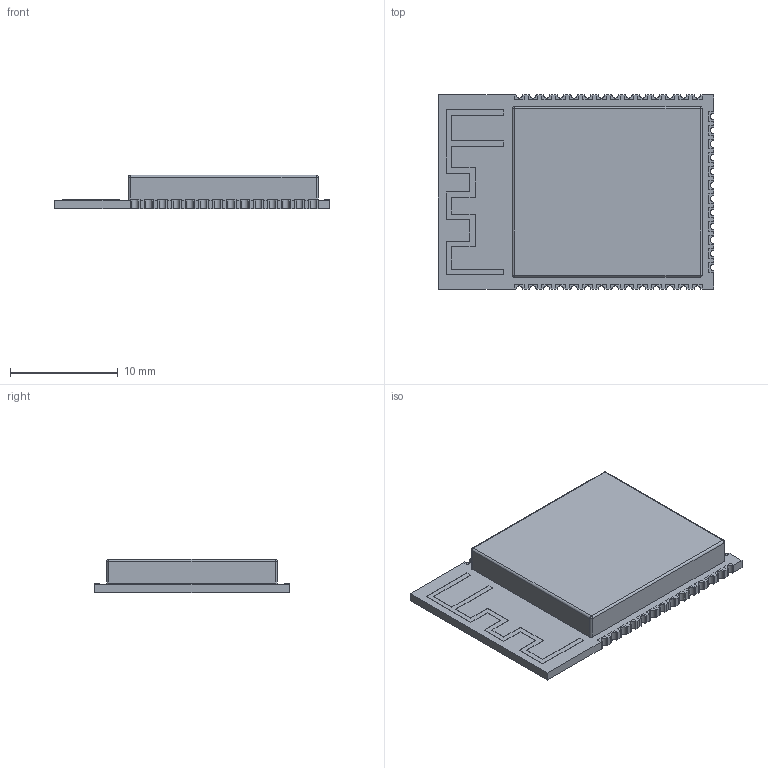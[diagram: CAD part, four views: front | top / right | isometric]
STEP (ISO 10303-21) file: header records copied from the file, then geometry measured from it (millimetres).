
FILE_DESCRIPTION(/* description */ ('STEP AP242 Edition 2','CAx-IF Rec.Pracs.---Representation and Presentation of Product Manufacturing Information (PMI)---4.0---2014-10-13','CAx-IF Rec.Pracs.---3D Tessellated Geometry---0.4---2014-09-14','2;1','CAx-IF Rec.Pracs.---User Defined Attributes---1.5---2016-08-15'),/* implementation_level */ '2;1');
FILE_NAME(/* name */ 'Assembly 1 - WIRELM-SMD_ESP32-S3-WROOM-1~WIRELM-SMD_ESP32-S3-WROOM-1~nxQB',/* time_stamp */ '2026-04-02T09:55:31Z',/* author */ (''),/* organization */ (''),/* preprocessor_version */ 'ST-DEVELOPER v20',/* originating_system */ 'ONSHAPE BY PTC INC, 1.212',/* authorisation */ ' ');
FILE_SCHEMA (('AP242_MANAGED_MODEL_BASED_3D_ENGINEERING_MIM_LF { 1 0 10303 442 3 1 4 }'));
Length unit declared in the file: metre
Products named in the file (1): WIRELM-SMD_ESP32-S3-WROOM-1~WIRELM-SMD_ESP32-S3-WROOM-1~nxQB
Bounding box: 25.5 x 18 x 3.11 mm (x, y, z)
Volume: 1002.4 mm3; surface area: 1139.4 mm2
Topology: 1 solids, 1 shells, 636 faces, 1840 edges, 1220 vertices
Faces by surface type: plane 570, cylinder 52, bspline 10, sphere 4
Entity records: 25134 total; most frequent: CARTESIAN_POINT 4299, ORIENTED_EDGE 3672, DIRECTION 3170, EDGE_CURVE 1836, LINE 1708, VECTOR 1708, VERTEX_POINT 1220, AXIS2_PLACEMENT_3D 731
